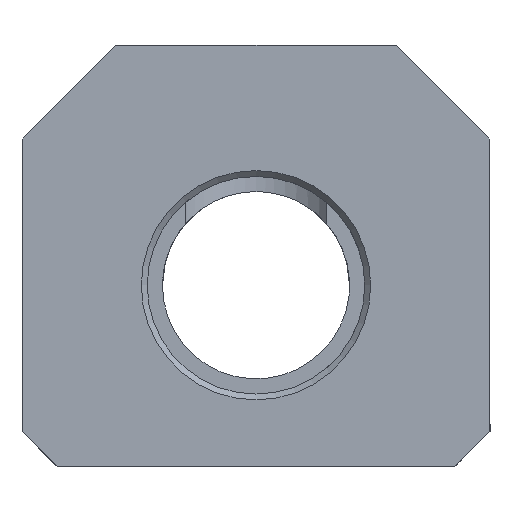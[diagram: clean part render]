
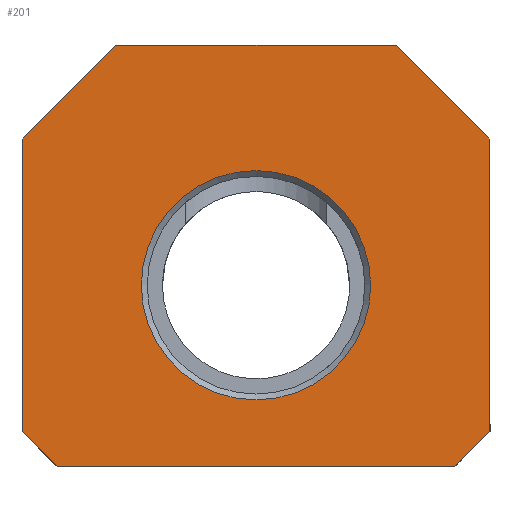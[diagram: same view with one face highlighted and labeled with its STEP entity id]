
A CAD part, left-side view. The second image highlights one B-rep face of the part: STEP entity #201.
In plain terms, the highlighted planar face has unit normal (-1, 0, 0).
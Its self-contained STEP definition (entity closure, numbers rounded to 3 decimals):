
#115=PLANE('',#722);
#133=LINE('',#1020,#167);
#134=LINE('',#1023,#168);
#135=LINE('',#1025,#169);
#136=LINE('',#1027,#170);
#137=LINE('',#1029,#171);
#138=LINE('',#1031,#172);
#139=LINE('',#1033,#173);
#140=LINE('',#1035,#174);
#167=VECTOR('',#821,1.);
#168=VECTOR('',#822,1.);
#169=VECTOR('',#823,1.);
#170=VECTOR('',#824,1.);
#171=VECTOR('',#825,1.);
#172=VECTOR('',#826,1.);
#173=VECTOR('',#827,1.);
#174=VECTOR('',#828,1.);
#201=ADVANCED_FACE('',(#251,#252),#115,.F.);
#251=FACE_BOUND('',#302,.T.);
#252=FACE_BOUND('',#303,.T.);
#302=EDGE_LOOP('',(#396));
#303=EDGE_LOOP('',(#397,#398,#399,#400,#401,#402,#403,#404));
#396=ORIENTED_EDGE('',*,*,#615,.T.);
#397=ORIENTED_EDGE('',*,*,#616,.F.);
#398=ORIENTED_EDGE('',*,*,#617,.T.);
#399=ORIENTED_EDGE('',*,*,#618,.F.);
#400=ORIENTED_EDGE('',*,*,#619,.T.);
#401=ORIENTED_EDGE('',*,*,#620,.F.);
#402=ORIENTED_EDGE('',*,*,#621,.T.);
#403=ORIENTED_EDGE('',*,*,#622,.F.);
#404=ORIENTED_EDGE('',*,*,#623,.T.);
#552=VERTEX_POINT('',#1019);
#553=VERTEX_POINT('',#1021);
#554=VERTEX_POINT('',#1022);
#555=VERTEX_POINT('',#1024);
#556=VERTEX_POINT('',#1026);
#557=VERTEX_POINT('',#1028);
#558=VERTEX_POINT('',#1030);
#559=VERTEX_POINT('',#1032);
#560=VERTEX_POINT('',#1034);
#615=EDGE_CURVE('',#552,#552,#680,.T.);
#616=EDGE_CURVE('',#553,#554,#133,.T.);
#617=EDGE_CURVE('',#553,#555,#134,.T.);
#618=EDGE_CURVE('',#556,#555,#135,.T.);
#619=EDGE_CURVE('',#556,#557,#136,.T.);
#620=EDGE_CURVE('',#558,#557,#137,.T.);
#621=EDGE_CURVE('',#558,#559,#138,.T.);
#622=EDGE_CURVE('',#560,#559,#139,.T.);
#623=EDGE_CURVE('',#560,#554,#140,.T.);
#680=CIRCLE('',#721,9.8);
#721=AXIS2_PLACEMENT_3D('',#1018,#819,#820);
#722=AXIS2_PLACEMENT_3D('',#1036,#829,#830);
#819=DIRECTION('',(1.,0.,0.));
#820=DIRECTION('',(0.,0.,-1.));
#821=DIRECTION('',(0.,0.,1.));
#822=DIRECTION('',(0.,-0.707,-0.707));
#823=DIRECTION('',(0.,1.,0.));
#824=DIRECTION('',(0.,-0.707,0.707));
#825=DIRECTION('',(0.,0.,-1.));
#826=DIRECTION('',(0.,0.707,0.707));
#827=DIRECTION('',(0.,-1.,0.));
#828=DIRECTION('',(0.,0.707,-0.707));
#829=DIRECTION('',(1.,0.,0.));
#830=DIRECTION('',(0.,0.,-1.));
#1018=CARTESIAN_POINT('',(-190.,0.,0.));
#1019=CARTESIAN_POINT('',(-190.,0.,-9.8));
#1020=CARTESIAN_POINT('',(-190.,20.,-15.5));
#1021=CARTESIAN_POINT('',(-190.,20.,-12.5));
#1022=CARTESIAN_POINT('',(-190.,20.,12.5));
#1023=CARTESIAN_POINT('',(-190.,17.,-15.5));
#1024=CARTESIAN_POINT('',(-190.,17.,-15.5));
#1025=CARTESIAN_POINT('',(-190.,-20.,-15.5));
#1026=CARTESIAN_POINT('',(-190.,-17.,-15.5));
#1027=CARTESIAN_POINT('',(-190.,-20.,-12.5));
#1028=CARTESIAN_POINT('',(-190.,-20.,-12.5));
#1029=CARTESIAN_POINT('',(-190.,-20.,20.5));
#1030=CARTESIAN_POINT('',(-190.,-20.,12.5));
#1031=CARTESIAN_POINT('',(-190.,-12.,20.5));
#1032=CARTESIAN_POINT('',(-190.,-12.,20.5));
#1033=CARTESIAN_POINT('',(-190.,20.,20.5));
#1034=CARTESIAN_POINT('',(-190.,12.,20.5));
#1035=CARTESIAN_POINT('',(-190.,20.,12.5));
#1036=CARTESIAN_POINT('',(-190.,0.,0.));
